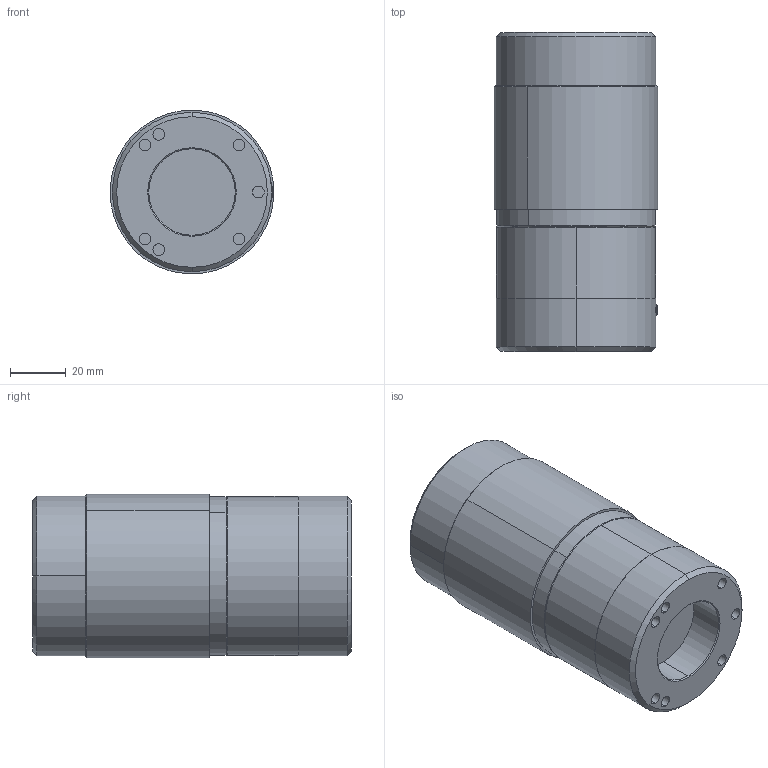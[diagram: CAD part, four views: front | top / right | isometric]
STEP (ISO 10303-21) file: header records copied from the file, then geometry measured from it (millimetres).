
FILE_DESCRIPTION (( 'STEP AP214' ), '1' );
FILE_NAME ('BEC-25-1.5-10.6-S.STEP', '2016-12-02T20:37:55', ( '' ), ( '' ), 'SwSTEP 2.0', 'SolidWorks 2016', '' );
FILE_SCHEMA (( 'AUTOMOTIVE_DESIGN' ));
Length unit declared in the file: inch
Products named in the file (1): BEC-25-1.5-10.6-S
Bounding box: 58.65 x 114.3 x 58.65 mm (x, y, z)
Volume: 276839.4 mm3; surface area: 35439.6 mm2
Topology: 2 solids, 2 shells, 106 faces, 215 edges, 134 vertices
Faces by surface type: cylinder 49, plane 30, cone 27
Entity records: 2985 total; most frequent: CARTESIAN_POINT 679, DIRECTION 506, ORIENTED_EDGE 430, AXIS2_PLACEMENT_3D 219, EDGE_CURVE 215, VERTEX_POINT 134, EDGE_LOOP 127, CIRCLE 112
